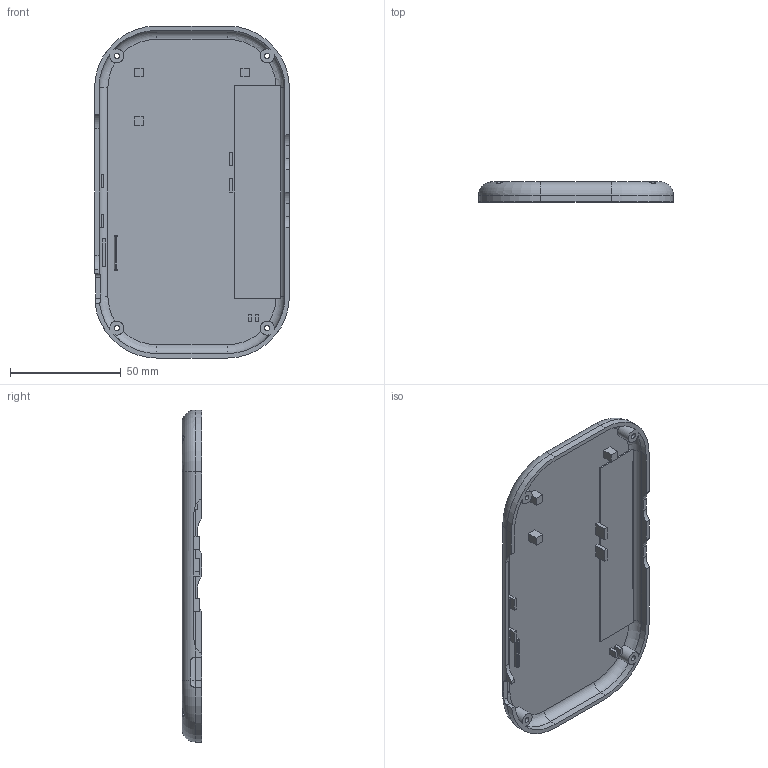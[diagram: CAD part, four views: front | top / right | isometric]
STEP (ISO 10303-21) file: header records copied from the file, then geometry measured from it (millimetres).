
FILE_DESCRIPTION(('Open CASCADE Model'),'2;1');
FILE_NAME('rear_service_cover_PA12','2026-09-08T13:43:14',('Author'),( 'Open CASCADE'),'Open CASCADE STEP processor 7.8','build123d', 'Unknown');
FILE_SCHEMA(('AUTOMOTIVE_DESIGN { 1 0 10303 214 1 1 1 1 }'));
Length unit declared in the file: millimetre
Products named in the file (2): =>[0:1:1:2]; rear_service_cover_PA12
Assembly tree (1 placements, depth 2):
  =>[0:1:1:2]
    rear_service_cover_PA12
Bounding box: 88 x 9 x 150 mm (x, y, z)
Volume: 30882.4 mm3; surface area: 30665.2 mm2
Topology: 1 solids, 1 shells, 158 faces, 411 edges, 262 vertices
Faces by surface type: plane 90, cylinder 51, torus 12, sphere 5
Full cylindrical faces by diameter (mm): 2.4 x4, 4.2 x4
Entity records: 12894 total; most frequent: CARTESIAN_POINT 4889, DIRECTION 1446, LINE 836, VECTOR 836, ORIENTED_EDGE 814, PCURVE 814, DEFINITIONAL_REPRESENTATION 814, EDGE_CURVE 407
